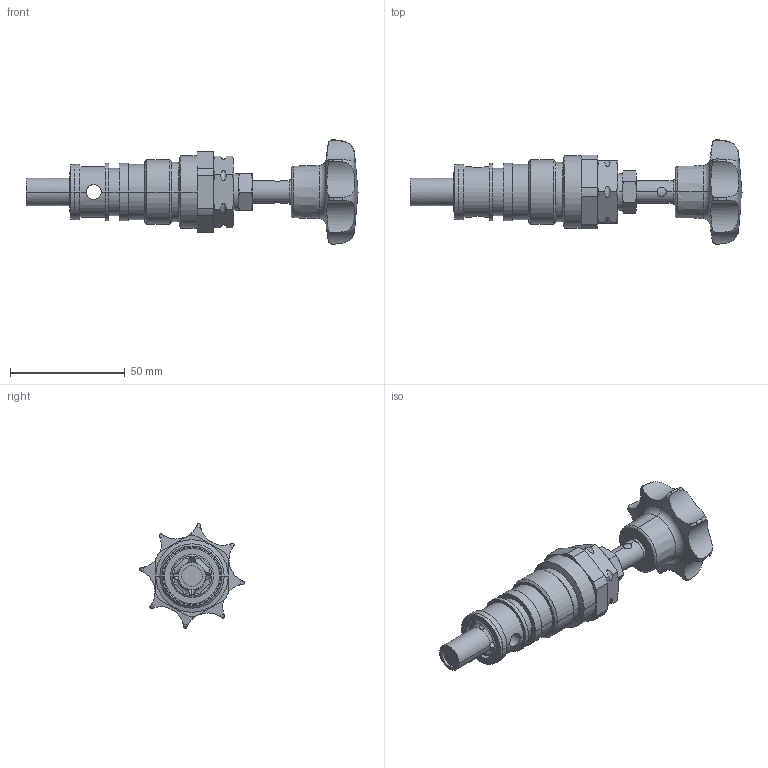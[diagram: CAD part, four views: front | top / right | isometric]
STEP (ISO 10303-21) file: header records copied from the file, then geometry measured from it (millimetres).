
FILE_DESCRIPTION((''),'2;1');
FILE_NAME('VPP1_06','2015-01-14T',('d.helta'),(''),'PRO/ENGINEER BY PARAMETRIC TECHNOLOGY CORPORATION, 2014090','PRO/ENGINEER BY PARAMETRIC TECHNOLOGY CORPORATION, 2014090','');
FILE_SCHEMA(('AUTOMOTIVE_DESIGN { 1 0 10303 214 1 1 1 1 }'));
Length unit declared in the file: millimetre
Products named in the file (1): VPP1_06
Bounding box: 144.5 x 45.51 x 45.51 mm (x, y, z)
Volume: 64290.5 mm3; surface area: 17176.8 mm2
Topology: 1 solids, 3 shells, 183 faces, 471 edges, 323 vertices
Faces by surface type: cylinder 64, cone 48, plane 47, torus 24
Entity records: 8791 total; most frequent: CARTESIAN_POINT 3996, ORIENTED_EDGE 884, DIRECTION 863, EDGE_CURVE 446, AXIS2_PLACEMENT_3D 354, VERTEX_POINT 277, EDGE_LOOP 199, FACE_OUTER_BOUND 183
